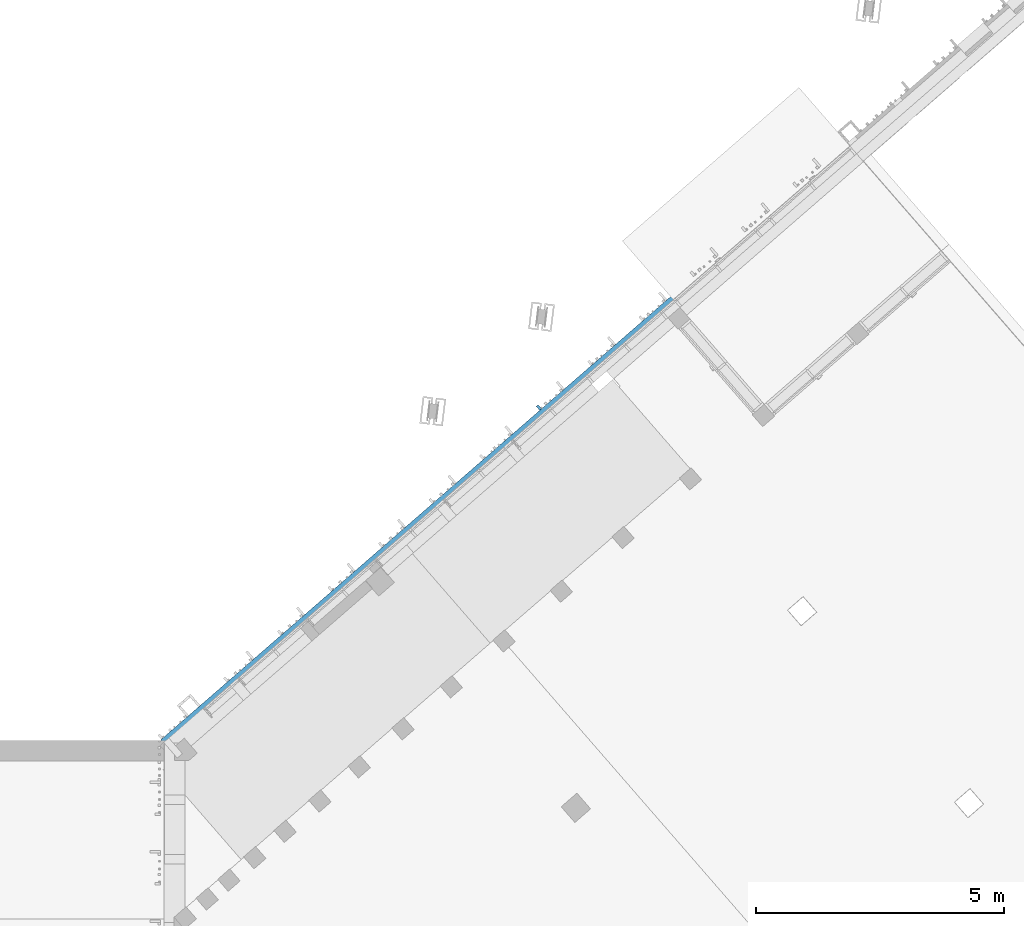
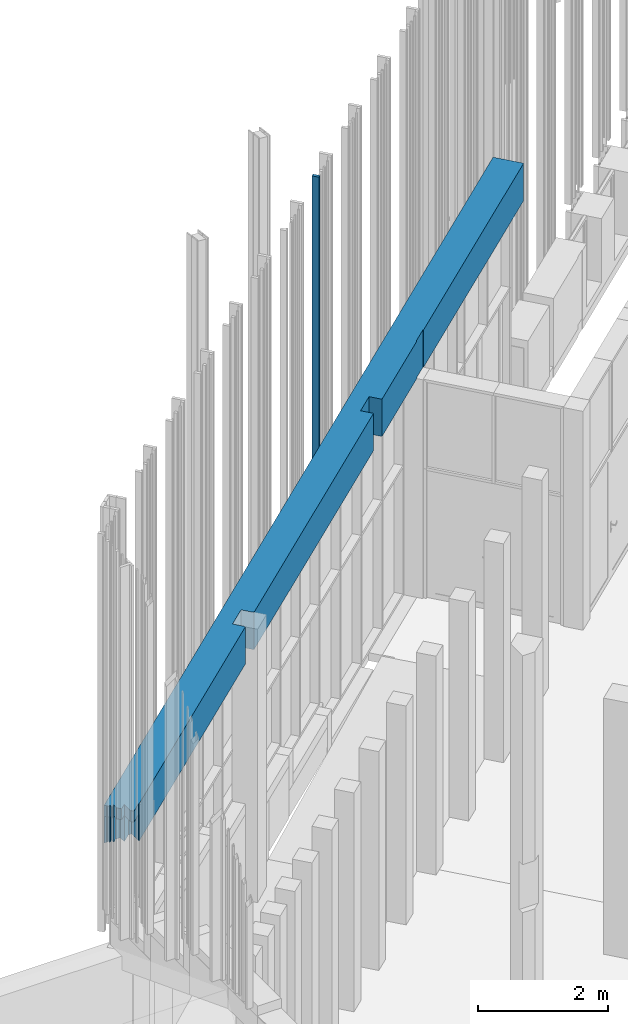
# One storey, part 219 of 390: 2 walls.
"""IFC2X3 building model written with IfcOpenShell, lengths in millimetres."""

from ifc_helpers import new_model, entity, si_unit, converted_unit, derived_unit, money_unit, direction, frame, origin_with_axes, place, context, subcontext, project, spatial, faceted_brep, material, material_list, type_object, element, save


model = new_model("IFC2X3")

# Units and contexts
model_context = context("Model", 3, precision=1e-05, world=origin_with_axes(), true_north=direction((0.0, 1.0)))
body_context = subcontext(model_context, "Body", "Model", "MODEL_VIEW")
ifc_project = project(units=[si_unit("LENGTHUNIT", "METRE", prefix="MILLI"), si_unit("AREAUNIT", "SQUARE_METRE"), si_unit("VOLUMEUNIT", "CUBIC_METRE"), converted_unit("PLANEANGLEUNIT", "DEGREE", entity("IfcPlaneAngleMeasure", 0.0174532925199), si_unit("PLANEANGLEUNIT", "RADIAN"), dimensions=[0, 0, 0, 0, 0, 0, 0]), si_unit("SOLIDANGLEUNIT", "STERADIAN"), money_unit("EUR"), converted_unit("TIMEUNIT", "Year", entity("IfcTimeMeasure", 31556926.0), si_unit("TIMEUNIT", "SECOND"), dimensions=[0, 0, 1, 0, 0, 0, 0]), si_unit("MASSUNIT", "GRAM", prefix="KILO"), si_unit("THERMODYNAMICTEMPERATUREUNIT", "DEGREE_CELSIUS"), si_unit("LUMINOUSINTENSITYUNIT", "LUMEN"), si_unit("ENERGYUNIT", "JOULE", prefix="MEGA"), derived_unit("THERMALCONDUCTANCEUNIT", [(si_unit("POWERUNIT", "WATT"), 1), (si_unit("LENGTHUNIT", "METRE"), -1), (si_unit("THERMODYNAMICTEMPERATUREUNIT", "KELVIN"), -1)]), derived_unit("SPECIFICHEATCAPACITYUNIT", [(si_unit("ENERGYUNIT", "JOULE"), 1), (si_unit("MASSUNIT", "GRAM", prefix="KILO"), -1), (si_unit("THERMODYNAMICTEMPERATUREUNIT", "KELVIN"), -1)]), derived_unit("MASSDENSITYUNIT", [(si_unit("MASSUNIT", "GRAM", prefix="KILO"), 1), (si_unit("VOLUMEUNIT", "CUBIC_METRE"), -1)])], contexts=[model_context])

# Site, building, storey
site_placement = place(None, origin_with_axes())
site = spatial("IfcSite", under=ifc_project, at=site_placement, Name="Site", CompositionType="ELEMENT")
building_placement = place(site_placement, origin_with_axes())
building = spatial("IfcBuilding", under=site, at=building_placement, Name="Building", CompositionType="ELEMENT")
storey_placement = place(building_placement, origin_with_axes())
storey = spatial("IfcBuildingStorey", under=building, at=storey_placement, Name="1 korrus", CompositionType="ELEMENT", Elevation=0.0)

# Walls
ifc_material_1 = material(Name="Puit - Konstruktsioon")
ifc_material_2 = material(Name="Õhkvahe")
ifc_material_3 = material(Name="Soojustus - Plastik Kõva")
ifc_material_4 = material(Name="Raudbetoon - Toode")
ifc_material_5 = material(Name="Krohv - Lubjakivi")
ifc_material_list = material_list([ifc_material_1, ifc_material_1, ifc_material_2, ifc_material_3, ifc_material_3, ifc_material_4, ifc_material_4, ifc_material_4, ifc_material_5, ifc_material_5, ifc_material_5, ifc_material_5])
wall_type_1 = type_object("IfcWallType", Name="VS-01", PredefinedType="NOTDEFINED")
wall_1_placement = place(storey_placement, frame((122743.188618, 76043.7850475, 4100.0), z_axis=(0.0, 0.0, 1.0), x_axis=(0.754709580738, 0.656059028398, 0.0)))
element("IfcWall", 1, at=wall_1_placement, inside=storey, type_object=wall_type_1, material=ifc_material_list, Name="VS-01", context=body_context, shape_type="Brep", body=[
    faceted_brep([(11.5036551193, 475.0, 0.0), (11.5036551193, 475.0, 494.999997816), (0.0, 484.999974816, 494.999997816), (0.0, 484.999974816, 0.0), (0.0, 475.0, 494.999997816), (18346.5654575, 475.0, 0.0), (18346.5654575, 475.0, 700.0), (0.0, 475.0, 700.0), (0.0, 497.0, 0.0), (0.0, 497.0, 700.0), (18346.5654575, 497.0, 0.0), (18346.5654575, 497.0, 700.0)], [[[0, 1, 2, 3]], [[4, 1, 0, 5, 6, 7]], [[2, 1, 4]], [[8, 3, 2, 4, 7, 9]], [[5, 0, 3, 8, 10]], [[6, 5, 10, 11]], [[9, 7, 6, 11]], [[8, 9, 11, 10]]]),
    faceted_brep([(22.6412791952, 465.318211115, 494.999997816), (11.5036551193, 475.0, 494.999997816), (11.5036551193, 475.0, 0.0), (22.6412791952, 465.318211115, 0.0), (0.0, 475.0, 494.999997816), (13.6717951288, 455.0, 494.999997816), (0.0, 455.0, 494.999997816), (18346.5654575, 475.0, 0.0), (0.0, 475.0, 700.0), (18346.5654575, 475.0, 700.0), (13.6717951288, 455.0, 0.0), (18346.5654575, 455.0, 0.0), (18346.5654575, 455.0, 700.0), (0.0, 455.0, 700.0)], [[[0, 1, 2, 3]], [[4, 1, 0, 5, 6]], [[7, 2, 1, 4, 8, 9]], [[10, 3, 2, 7, 11]], [[5, 0, 3, 10]], [[5, 10, 11, 12, 13, 6]], [[4, 6, 13, 8]], [[8, 13, 12, 9]], [[12, 11, 7, 9]]]),
    faceted_brep([(56.6032103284, 435.795554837, 494.999997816), (34.5110233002, 455.0, 494.999997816), (34.5110233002, 455.0, 0.0), (56.6032103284, 435.795554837, 0.0), (34.1794766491, 410.0, 494.999997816), (0.0, 410.0, 494.999997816), (-8.19966317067e-07, 439.272397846, 494.999997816), (13.6717957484, 455.000000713, 494.999997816), (18346.5654575, 455.0, 0.0), (13.6717983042, 455.0, 700.0), (18346.5654575, 455.0, 700.0), (34.1794766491, 410.0, 0.0), (18346.5654575, 410.0, 0.0), (18346.5654575, 410.0, 700.0), (0.0, 410.0, 700.0), (0.0, 439.272395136, 700.0)], [[[0, 1, 2, 3]], [[0, 4, 5, 6, 7, 1]], [[8, 2, 1, 7, 9, 10]], [[11, 3, 2, 8, 12]], [[4, 0, 3, 11]], [[4, 11, 12, 13, 14, 5]], [[15, 6, 5, 14]], [[9, 7, 6, 15]], [[10, 9, 15, 14, 13]], [[13, 12, 8, 10]]]),
    faceted_brep([(94.3386893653, 402.992603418, 494.999997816), (86.2776017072, 410.0, 494.999997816), (86.2776017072, 410.0, 0.0), (94.3386893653, 402.992603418, 0.0), (56.9657894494, 360.0, 494.999997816), (0.0, 360.0, 494.999997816), (-8.19966317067e-07, 370.681008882, 494.999997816), (34.1794772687, 410.000000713, 494.999997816), (18346.5654575, 410.0, 0.0), (34.1794798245, 410.0, 700.0), (18346.5654575, 410.0, 700.0), (56.9657894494, 360.0, 0.0), (18346.5654575, 360.0, 0.0), (18346.5654575, 360.0, 700.0), (0.0, 360.0, 700.0), (0.0, 370.681006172, 700.0)], [[[0, 1, 2, 3]], [[0, 4, 5, 6, 7, 1]], [[8, 2, 1, 7, 9, 10]], [[11, 3, 2, 8, 12]], [[4, 0, 3, 11]], [[4, 11, 12, 13, 14, 5]], [[15, 6, 5, 14]], [[9, 7, 6, 15]], [[10, 9, 15, 14, 13]], [[13, 12, 8, 10]]]),
    faceted_brep([(207.545126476, 304.583749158, 494.999997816), (143.796022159, 360.0, 494.999997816), (143.796022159, 360.0, 0.0), (207.545126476, 304.583749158, 0.0), (125.32472785, 210.0, 494.999997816), (0.0, 210.0, 494.999997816), (-8.19966317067e-07, 294.468354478, 494.999997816), (56.965790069, 360.000000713, 494.999997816), (18346.5654575, 360.0, 0.0), (56.9657926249, 360.0, 700.0), (18346.5654575, 360.0, 700.0), (125.32472785, 210.0, 0.0), (18346.5654575, 210.0, 0.0), (18346.5654575, 210.0, 700.0), (0.0, 210.0, 700.0), (0.0, 294.468351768, 700.0)], [[[0, 1, 2, 3]], [[0, 4, 5, 6, 7, 1]], [[8, 2, 1, 7, 9, 10]], [[11, 3, 2, 8, 12]], [[4, 0, 3, 11]], [[4, 11, 12, 13, 14, 5]], [[15, 6, 5, 14]], [[9, 7, 6, 15]], [[10, 9, 15, 14, 13]], [[13, 12, 8, 10]]]),
    faceted_brep([(5232.41124801, 10.0, 0.0), (5232.41124801, 10.0, 700.0), (0.0, 10.0, 700.0), (0.0, 10.0, 494.999997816), (216.469979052, 10.0, 494.999997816), (216.469979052, 10.0, 0.0), (5232.41124863, 209.999983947, 700.0), (5232.41124863, 209.999983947, 0.0), (125.324731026, 210.0, 700.0), (0.0, 65.8303885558, 700.0), (-8.19966317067e-07, 65.8303912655, 494.999997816), (358.487042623, 173.371943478, 494.999997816), (125.32472847, 210.000000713, 494.999997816), (316.351283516, 210.0, 494.999997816), (358.487042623, 173.371943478, 0.0), (316.351283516, 210.0, 0.0)], [[[0, 1, 2, 3, 4, 5]], [[6, 1, 0, 7]], [[1, 6, 8, 9, 2]], [[9, 10, 3, 2]], [[11, 4, 3, 10, 12, 13]], [[4, 11, 14, 5]], [[7, 0, 5, 14, 15]], [[6, 7, 15, 13, 12, 8]], [[8, 12, 10, 9]], [[11, 13, 15, 14]]]),
    faceted_brep([(11666.6866484, 209.999991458, 700.0), (11666.6866492, 10.0, 700.0), (18346.5654575, 10.0, 700.0), (18346.5654575, 210.0, 700.0), (11666.6866492, 10.0, 0.0), (11666.6866484, 209.999991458, 0.0), (18346.5654575, 10.0, 0.0), (18346.5654575, 210.0, 0.0)], [[[0, 1, 2, 3]], [[4, 1, 0, 5]], [[1, 4, 6, 2]], [[2, 6, 7, 3]], [[5, 0, 3, 7]], [[4, 5, 7, 6]]]),
    faceted_brep([(5632.41124863, 209.999982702, 700.0), (5632.41124801, 10.0, 700.0), (11266.6866492, 10.0, 700.0), (11266.6866484, 209.99998979, 700.0), (5632.41124801, 10.0, 0.0), (5632.41124863, 209.999982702, 0.0), (11266.6866492, 10.0, 0.0), (11266.6866484, 209.99998979, 0.0)], [[[0, 1, 2, 3]], [[4, 1, 0, 5]], [[1, 4, 6, 2]], [[3, 2, 6, 7]], [[5, 0, 3, 7]], [[4, 5, 7, 6]]]),
    faceted_brep([(5222.41124798, 0.0, 0.0), (5222.41124798, 0.0, 700.0), (207.777114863, 0.0, 700.0), (207.777112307, 7.12759629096e-07, 494.999997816), (221.027241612, 0.0, 494.999997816), (221.027241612, 0.0, 0.0), (5222.41124801, 10.0, 700.0), (5222.41124801, 10.0, 0.0), (216.469982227, 10.0, 700.0), (216.469979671, 10.0000007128, 494.999997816), (229.720108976, 10.0, 494.999997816), (229.720108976, 10.0, 0.0)], [[[0, 1, 2, 3, 4, 5]], [[6, 1, 0, 7]], [[1, 6, 8, 2]], [[8, 9, 3, 2]], [[3, 9, 10, 4]], [[4, 10, 11, 5]], [[7, 0, 5, 11]], [[6, 7, 11, 10, 9, 8]]]),
    faceted_brep([(11676.6866492, 10.0, 700.0), (11676.6866493, 0.0, 700.0), (13306.5655136, 0.0, 700.0), (13306.5655137, 10.0, 700.0), (11676.6866493, 0.0, 0.0), (11676.6866492, 10.0, 0.0), (13306.5655136, 0.0, 0.0), (13306.5655137, 10.0, 0.0)], [[[0, 1, 2, 3]], [[4, 1, 0, 5]], [[1, 4, 6, 2]], [[2, 6, 7, 3]], [[5, 0, 3, 7]], [[4, 5, 7, 6]]]),
    faceted_brep([(5642.41124801, 10.0, 700.0), (5642.41124798, 0.0, 700.0), (11256.6866493, 0.0, 700.0), (11256.6866492, 10.0, 700.0), (5642.41124798, 0.0, 0.0), (5642.41124801, 10.0, 0.0), (11256.6866493, 0.0, 0.0), (11256.6866492, 10.0, 0.0)], [[[0, 1, 2, 3]], [[4, 1, 0, 5]], [[1, 4, 6, 2]], [[3, 2, 6, 7]], [[5, 0, 3, 7]], [[4, 5, 7, 6]]]),
    faceted_brep([(18346.5654575, 10.0, 0.0), (18346.5654575, 0.0, 0.0), (13626.5655136, 0.0, 0.0), (13626.5655137, 10.0, 0.0), (18346.5654575, 10.0, 700.0), (18346.5654575, 0.0, 700.0), (13626.5655136, 0.0, 700.0), (13626.5655137, 10.0, 700.0)], [[[0, 1, 2, 3]], [[0, 4, 5, 1]], [[1, 5, 6, 2]], [[3, 2, 6, 7]], [[4, 0, 3, 7]], [[5, 4, 7, 6]]]),
])
ifc_material_6 = material(Name="Site specified")
wall_type_2 = type_object("IfcWallType", Name="Puitfassaadi ribistik", PredefinedType="NOTDEFINED")
wall_2_placement = place(storey_placement, frame((130045.120157, 83122.0019393, 4315.74909448), z_axis=(0.0, 0.0, 1.0), x_axis=(0.754709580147, 0.656059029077, 0.0)))
element("IfcWall", 2, at=wall_2_placement, inside=storey, type_object=wall_type_2, material=ifc_material_6, Name="Site specified", context=body_context, shape_type="Brep", body=[
    faceted_brep([(25.0, 54.5, 5549.25090552), (25.0, 54.5, 0.0), (-25.0, 54.5, 0.0), (-25.0, 54.5, 5549.25090552), (25.0, -54.5, 5549.25090552), (25.0, -54.5, 0.0), (-25.0, -54.5, 0.0), (-25.0, -54.5, 5549.25090552)], [[[0, 1, 2, 3]], [[4, 5, 1, 0]], [[2, 1, 5, 6]], [[3, 2, 6, 7]], [[4, 0, 3, 7]], [[7, 6, 5, 4]]]),
])

save(model, "model.ifc")
